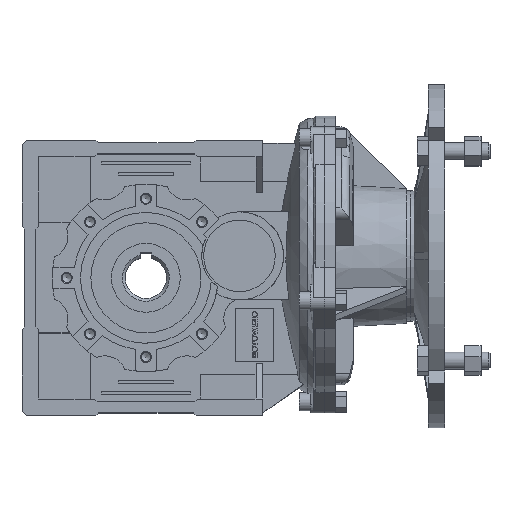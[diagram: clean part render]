
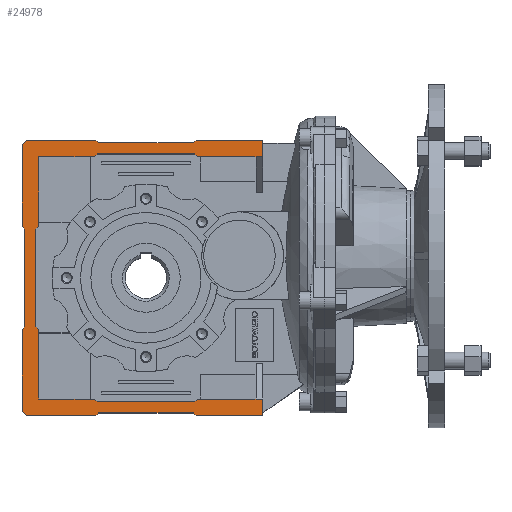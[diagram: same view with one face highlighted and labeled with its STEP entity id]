
A CAD part, top view. The second image highlights one B-rep face of the part: STEP entity #24978.
In plain terms, the highlighted planar face has unit normal (0, 0, 1) as drawn and (0, 0, -1) by its records, which use the part's own axes.
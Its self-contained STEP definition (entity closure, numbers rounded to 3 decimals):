
#322=PLANE('',#26126);
#2021=ORIENTED_EDGE('',*,*,#7325,.T.);
#2022=ORIENTED_EDGE('',*,*,#7326,.F.);
#2023=ORIENTED_EDGE('',*,*,#7327,.F.);
#2024=ORIENTED_EDGE('',*,*,#7328,.F.);
#2025=ORIENTED_EDGE('',*,*,#7329,.F.);
#2026=ORIENTED_EDGE('',*,*,#7330,.F.);
#2027=ORIENTED_EDGE('',*,*,#7331,.F.);
#2028=ORIENTED_EDGE('',*,*,#7332,.F.);
#2029=ORIENTED_EDGE('',*,*,#7333,.F.);
#2030=ORIENTED_EDGE('',*,*,#7334,.F.);
#2031=ORIENTED_EDGE('',*,*,#7335,.F.);
#2032=ORIENTED_EDGE('',*,*,#7336,.F.);
#2033=ORIENTED_EDGE('',*,*,#7337,.F.);
#2034=ORIENTED_EDGE('',*,*,#7338,.F.);
#2035=ORIENTED_EDGE('',*,*,#7339,.F.);
#2036=ORIENTED_EDGE('',*,*,#7340,.F.);
#2037=ORIENTED_EDGE('',*,*,#7341,.F.);
#2038=ORIENTED_EDGE('',*,*,#7342,.F.);
#2039=ORIENTED_EDGE('',*,*,#7343,.F.);
#2040=ORIENTED_EDGE('',*,*,#7344,.F.);
#2041=ORIENTED_EDGE('',*,*,#7345,.F.);
#2042=ORIENTED_EDGE('',*,*,#7346,.T.);
#2043=ORIENTED_EDGE('',*,*,#7347,.T.);
#2044=ORIENTED_EDGE('',*,*,#7348,.T.);
#2045=ORIENTED_EDGE('',*,*,#7349,.T.);
#2046=ORIENTED_EDGE('',*,*,#7350,.T.);
#2047=ORIENTED_EDGE('',*,*,#7351,.T.);
#2048=ORIENTED_EDGE('',*,*,#7352,.T.);
#2049=ORIENTED_EDGE('',*,*,#7353,.T.);
#2050=ORIENTED_EDGE('',*,*,#7354,.T.);
#2051=ORIENTED_EDGE('',*,*,#7355,.T.);
#2052=ORIENTED_EDGE('',*,*,#7356,.T.);
#2053=ORIENTED_EDGE('',*,*,#7357,.T.);
#2054=ORIENTED_EDGE('',*,*,#7358,.T.);
#2055=ORIENTED_EDGE('',*,*,#7359,.T.);
#2056=ORIENTED_EDGE('',*,*,#7360,.T.);
#7325=EDGE_CURVE('',#9961,#9962,#11684,.T.);
#7326=EDGE_CURVE('',#9963,#9962,#11685,.T.);
#7327=EDGE_CURVE('',#9964,#9963,#11686,.T.);
#7328=EDGE_CURVE('',#9965,#9964,#11687,.T.);
#7329=EDGE_CURVE('',#9966,#9965,#11688,.T.);
#7330=EDGE_CURVE('',#9967,#9966,#11689,.T.);
#7331=EDGE_CURVE('',#9968,#9967,#11690,.T.);
#7332=EDGE_CURVE('',#9969,#9968,#11691,.T.);
#7333=EDGE_CURVE('',#9970,#9969,#11692,.T.);
#7334=EDGE_CURVE('',#9971,#9970,#11693,.T.);
#7335=EDGE_CURVE('',#9972,#9971,#11694,.T.);
#7336=EDGE_CURVE('',#9973,#9972,#11695,.T.);
#7337=EDGE_CURVE('',#9974,#9973,#11696,.T.);
#7338=EDGE_CURVE('',#9975,#9974,#11697,.T.);
#7339=EDGE_CURVE('',#9976,#9975,#11698,.T.);
#7340=EDGE_CURVE('',#9977,#9976,#11699,.T.);
#7341=EDGE_CURVE('',#9978,#9977,#11700,.T.);
#7342=EDGE_CURVE('',#9979,#9978,#11701,.T.);
#7343=EDGE_CURVE('',#9980,#9979,#11702,.T.);
#7344=EDGE_CURVE('',#9981,#9980,#11703,.T.);
#7345=EDGE_CURVE('',#9982,#9981,#11704,.T.);
#7346=EDGE_CURVE('',#9982,#9983,#11705,.T.);
#7347=EDGE_CURVE('',#9983,#9984,#11706,.T.);
#7348=EDGE_CURVE('',#9984,#9985,#11707,.T.);
#7349=EDGE_CURVE('',#9985,#9986,#11708,.T.);
#7350=EDGE_CURVE('',#9986,#9987,#11709,.T.);
#7351=EDGE_CURVE('',#9987,#9988,#11710,.T.);
#7352=EDGE_CURVE('',#9988,#9989,#11711,.T.);
#7353=EDGE_CURVE('',#9989,#9990,#11712,.T.);
#7354=EDGE_CURVE('',#9990,#9991,#11713,.T.);
#7355=EDGE_CURVE('',#9991,#9992,#11714,.T.);
#7356=EDGE_CURVE('',#9992,#9993,#11715,.T.);
#7357=EDGE_CURVE('',#9993,#9994,#11716,.T.);
#7358=EDGE_CURVE('',#9994,#9995,#11717,.T.);
#7359=EDGE_CURVE('',#9995,#9996,#11718,.T.);
#7360=EDGE_CURVE('',#9996,#9961,#11719,.T.);
#9961=VERTEX_POINT('',#33666);
#9962=VERTEX_POINT('',#33667);
#9963=VERTEX_POINT('',#33669);
#9964=VERTEX_POINT('',#33671);
#9965=VERTEX_POINT('',#33673);
#9966=VERTEX_POINT('',#33675);
#9967=VERTEX_POINT('',#33677);
#9968=VERTEX_POINT('',#33679);
#9969=VERTEX_POINT('',#33681);
#9970=VERTEX_POINT('',#33683);
#9971=VERTEX_POINT('',#33685);
#9972=VERTEX_POINT('',#33687);
#9973=VERTEX_POINT('',#33689);
#9974=VERTEX_POINT('',#33691);
#9975=VERTEX_POINT('',#33693);
#9976=VERTEX_POINT('',#33695);
#9977=VERTEX_POINT('',#33697);
#9978=VERTEX_POINT('',#33699);
#9979=VERTEX_POINT('',#33701);
#9980=VERTEX_POINT('',#33703);
#9981=VERTEX_POINT('',#33705);
#9982=VERTEX_POINT('',#33707);
#9983=VERTEX_POINT('',#33709);
#9984=VERTEX_POINT('',#33711);
#9985=VERTEX_POINT('',#33713);
#9986=VERTEX_POINT('',#33715);
#9987=VERTEX_POINT('',#33717);
#9988=VERTEX_POINT('',#33719);
#9989=VERTEX_POINT('',#33721);
#9990=VERTEX_POINT('',#33723);
#9991=VERTEX_POINT('',#33725);
#9992=VERTEX_POINT('',#33727);
#9993=VERTEX_POINT('',#33729);
#9994=VERTEX_POINT('',#33731);
#9995=VERTEX_POINT('',#33733);
#9996=VERTEX_POINT('',#33735);
#11684=LINE('',#33665,#13579);
#11685=LINE('',#33668,#13580);
#11686=LINE('',#33670,#13581);
#11687=LINE('',#33672,#13582);
#11688=LINE('',#33674,#13583);
#11689=LINE('',#33676,#13584);
#11690=LINE('',#33678,#13585);
#11691=LINE('',#33680,#13586);
#11692=LINE('',#33682,#13587);
#11693=LINE('',#33684,#13588);
#11694=LINE('',#33686,#13589);
#11695=LINE('',#33688,#13590);
#11696=LINE('',#33690,#13591);
#11697=LINE('',#33692,#13592);
#11698=LINE('',#33694,#13593);
#11699=LINE('',#33696,#13594);
#11700=LINE('',#33698,#13595);
#11701=LINE('',#33700,#13596);
#11702=LINE('',#33702,#13597);
#11703=LINE('',#33704,#13598);
#11704=LINE('',#33706,#13599);
#11705=LINE('',#33708,#13600);
#11706=LINE('',#33710,#13601);
#11707=LINE('',#33712,#13602);
#11708=LINE('',#33714,#13603);
#11709=LINE('',#33716,#13604);
#11710=LINE('',#33718,#13605);
#11711=LINE('',#33720,#13606);
#11712=LINE('',#33722,#13607);
#11713=LINE('',#33724,#13608);
#11714=LINE('',#33726,#13609);
#11715=LINE('',#33728,#13610);
#11716=LINE('',#33730,#13611);
#11717=LINE('',#33732,#13612);
#11718=LINE('',#33734,#13613);
#11719=LINE('',#33736,#13614);
#13579=VECTOR('',#28171,1000.);
#13580=VECTOR('',#28172,1000.);
#13581=VECTOR('',#28173,1000.);
#13582=VECTOR('',#28174,1000.);
#13583=VECTOR('',#28175,1000.);
#13584=VECTOR('',#28176,1000.);
#13585=VECTOR('',#28177,1000.);
#13586=VECTOR('',#28178,1000.);
#13587=VECTOR('',#28179,1000.);
#13588=VECTOR('',#28180,1000.);
#13589=VECTOR('',#28181,1000.);
#13590=VECTOR('',#28182,1000.);
#13591=VECTOR('',#28183,1000.);
#13592=VECTOR('',#28184,1000.);
#13593=VECTOR('',#28185,1000.);
#13594=VECTOR('',#28186,1000.);
#13595=VECTOR('',#28187,1000.);
#13596=VECTOR('',#28188,1000.);
#13597=VECTOR('',#28189,1000.);
#13598=VECTOR('',#28190,1000.);
#13599=VECTOR('',#28191,1000.);
#13600=VECTOR('',#28192,1000.);
#13601=VECTOR('',#28193,1000.);
#13602=VECTOR('',#28194,1000.);
#13603=VECTOR('',#28195,1000.);
#13604=VECTOR('',#28196,1000.);
#13605=VECTOR('',#28197,1000.);
#13606=VECTOR('',#28198,1000.);
#13607=VECTOR('',#28199,1000.);
#13608=VECTOR('',#28200,1000.);
#13609=VECTOR('',#28201,1000.);
#13610=VECTOR('',#28202,1000.);
#13611=VECTOR('',#28203,1000.);
#13612=VECTOR('',#28204,1000.);
#13613=VECTOR('',#28205,1000.);
#13614=VECTOR('',#28206,1000.);
#15293=EDGE_LOOP('',(#2021,#2022,#2023,#2024,#2025,#2026,#2027,#2028,#2029,
#2030,#2031,#2032,#2033,#2034,#2035,#2036,#2037,#2038,#2039,#2040,#2041,
#2042,#2043,#2044,#2045,#2046,#2047,#2048,#2049,#2050,#2051,#2052,#2053,
#2054,#2055,#2056));
#16506=FACE_BOUND('',#15293,.T.);
#24978=ADVANCED_FACE('',(#16506),#322,.F.);
#26126=AXIS2_PLACEMENT_3D('',#33664,#28169,#28170);
#28169=DIRECTION('',(0.,0.,1.));
#28170=DIRECTION('',(1.,0.,0.));
#28171=DIRECTION('',(-1.,0.,0.));
#28172=DIRECTION('',(0.,-1.,0.));
#28173=DIRECTION('',(-1.,0.,0.));
#28174=DIRECTION('',(-0.707,0.707,0.));
#28175=DIRECTION('',(-1.,0.,0.));
#28176=DIRECTION('',(-0.707,-0.707,0.));
#28177=DIRECTION('',(-1.,0.,0.));
#28178=DIRECTION('',(-0.707,0.707,0.));
#28179=DIRECTION('',(0.,1.,0.));
#28180=DIRECTION('',(0.707,0.707,0.));
#28181=DIRECTION('',(0.,1.,0.));
#28182=DIRECTION('',(-0.707,0.707,0.));
#28183=DIRECTION('',(0.,1.,0.));
#28184=DIRECTION('',(0.707,0.707,0.));
#28185=DIRECTION('',(1.,0.,0.));
#28186=DIRECTION('',(0.707,-0.707,0.));
#28187=DIRECTION('',(1.,0.,0.));
#28188=DIRECTION('',(0.707,0.707,0.));
#28189=DIRECTION('',(1.,0.,0.));
#28190=DIRECTION('',(0.,-1.,0.));
#28191=DIRECTION('',(-1.,0.,0.));
#28192=DIRECTION('',(1.,0.,0.));
#28193=DIRECTION('',(0.707,-0.707,0.));
#28194=DIRECTION('',(1.,0.,0.));
#28195=DIRECTION('',(0.707,0.707,0.));
#28196=DIRECTION('',(1.,0.,0.));
#28197=DIRECTION('',(0.,1.,0.));
#28198=DIRECTION('',(0.707,0.707,0.));
#28199=DIRECTION('',(0.,1.,0.));
#28200=DIRECTION('',(-0.707,0.707,0.));
#28201=DIRECTION('',(0.,1.,0.));
#28202=DIRECTION('',(-1.,0.,0.));
#28203=DIRECTION('',(-0.707,0.707,0.));
#28204=DIRECTION('',(-1.,0.,0.));
#28205=DIRECTION('',(-0.707,-0.707,0.));
#28206=DIRECTION('',(-1.,0.,0.));
#33664=CARTESIAN_POINT('',(0.,0.,-62.5));
#33665=CARTESIAN_POINT('',(49.5,72.,-62.5));
#33666=CARTESIAN_POINT('',(49.5,72.,-62.5));
#33667=CARTESIAN_POINT('',(44.5,72.,-62.5));
#33668=CARTESIAN_POINT('',(44.5,84.,-62.5));
#33669=CARTESIAN_POINT('',(44.5,84.,-62.5));
#33670=CARTESIAN_POINT('',(93.,84.,-62.5));
#33671=CARTESIAN_POINT('',(93.,84.,-62.5));
#33672=CARTESIAN_POINT('',(95.,82.,-62.5));
#33673=CARTESIAN_POINT('',(95.,82.,-62.5));
#33674=CARTESIAN_POINT('',(164.,82.,-62.5));
#33675=CARTESIAN_POINT('',(164.,82.,-62.5));
#33676=CARTESIAN_POINT('',(166.,84.,-62.5));
#33677=CARTESIAN_POINT('',(166.,84.,-62.5));
#33678=CARTESIAN_POINT('',(216.5,84.,-62.5));
#33679=CARTESIAN_POINT('',(216.5,84.,-62.5));
#33680=CARTESIAN_POINT('',(219.5,81.,-62.5));
#33681=CARTESIAN_POINT('',(219.5,81.,-62.5));
#33682=CARTESIAN_POINT('',(219.5,21.5,-62.5));
#33683=CARTESIAN_POINT('',(219.5,21.5,-62.5));
#33684=CARTESIAN_POINT('',(217.5,19.5,-62.5));
#33685=CARTESIAN_POINT('',(217.5,19.5,-62.5));
#33686=CARTESIAN_POINT('',(217.5,-51.5,-62.5));
#33687=CARTESIAN_POINT('',(217.5,-51.5,-62.5));
#33688=CARTESIAN_POINT('',(219.5,-53.5,-62.5));
#33689=CARTESIAN_POINT('',(219.5,-53.5,-62.5));
#33690=CARTESIAN_POINT('',(219.5,-113.,-62.5));
#33691=CARTESIAN_POINT('',(219.5,-113.,-62.5));
#33692=CARTESIAN_POINT('',(216.5,-116.,-62.5));
#33693=CARTESIAN_POINT('',(216.5,-116.,-62.5));
#33694=CARTESIAN_POINT('',(166.,-116.,-62.5));
#33695=CARTESIAN_POINT('',(166.,-116.,-62.5));
#33696=CARTESIAN_POINT('',(164.,-114.,-62.5));
#33697=CARTESIAN_POINT('',(164.,-114.,-62.5));
#33698=CARTESIAN_POINT('',(95.,-114.,-62.5));
#33699=CARTESIAN_POINT('',(95.,-114.,-62.5));
#33700=CARTESIAN_POINT('',(93.,-116.,-62.5));
#33701=CARTESIAN_POINT('',(93.,-116.,-62.5));
#33702=CARTESIAN_POINT('',(44.5,-116.,-62.5));
#33703=CARTESIAN_POINT('',(44.5,-116.,-62.5));
#33704=CARTESIAN_POINT('',(44.5,84.,-62.5));
#33705=CARTESIAN_POINT('',(44.5,-104.,-62.5));
#33706=CARTESIAN_POINT('',(49.5,-104.,-62.5));
#33707=CARTESIAN_POINT('',(49.5,-104.,-62.5));
#33708=CARTESIAN_POINT('',(49.5,-104.,-62.5));
#33709=CARTESIAN_POINT('',(92.,-104.,-62.5));
#33710=CARTESIAN_POINT('',(92.,-104.,-62.5));
#33711=CARTESIAN_POINT('',(94.,-106.,-62.5));
#33712=CARTESIAN_POINT('',(94.,-106.,-62.5));
#33713=CARTESIAN_POINT('',(165.,-106.,-62.5));
#33714=CARTESIAN_POINT('',(165.,-106.,-62.5));
#33715=CARTESIAN_POINT('',(167.,-104.,-62.5));
#33716=CARTESIAN_POINT('',(167.,-104.,-62.5));
#33717=CARTESIAN_POINT('',(207.5,-104.,-62.5));
#33718=CARTESIAN_POINT('',(207.5,-104.,-62.5));
#33719=CARTESIAN_POINT('',(207.5,-53.5,-62.5));
#33720=CARTESIAN_POINT('',(207.5,-53.5,-62.5));
#33721=CARTESIAN_POINT('',(209.5,-51.5,-62.5));
#33722=CARTESIAN_POINT('',(209.5,-51.5,-62.5));
#33723=CARTESIAN_POINT('',(209.5,19.5,-62.5));
#33724=CARTESIAN_POINT('',(209.5,19.5,-62.5));
#33725=CARTESIAN_POINT('',(207.5,21.5,-62.5));
#33726=CARTESIAN_POINT('',(207.5,21.5,-62.5));
#33727=CARTESIAN_POINT('',(207.5,72.,-62.5));
#33728=CARTESIAN_POINT('',(207.5,72.,-62.5));
#33729=CARTESIAN_POINT('',(167.,72.,-62.5));
#33730=CARTESIAN_POINT('',(167.,72.,-62.5));
#33731=CARTESIAN_POINT('',(165.,74.,-62.5));
#33732=CARTESIAN_POINT('',(165.,74.,-62.5));
#33733=CARTESIAN_POINT('',(94.,74.,-62.5));
#33734=CARTESIAN_POINT('',(94.,74.,-62.5));
#33735=CARTESIAN_POINT('',(92.,72.,-62.5));
#33736=CARTESIAN_POINT('',(92.,72.,-62.5));
